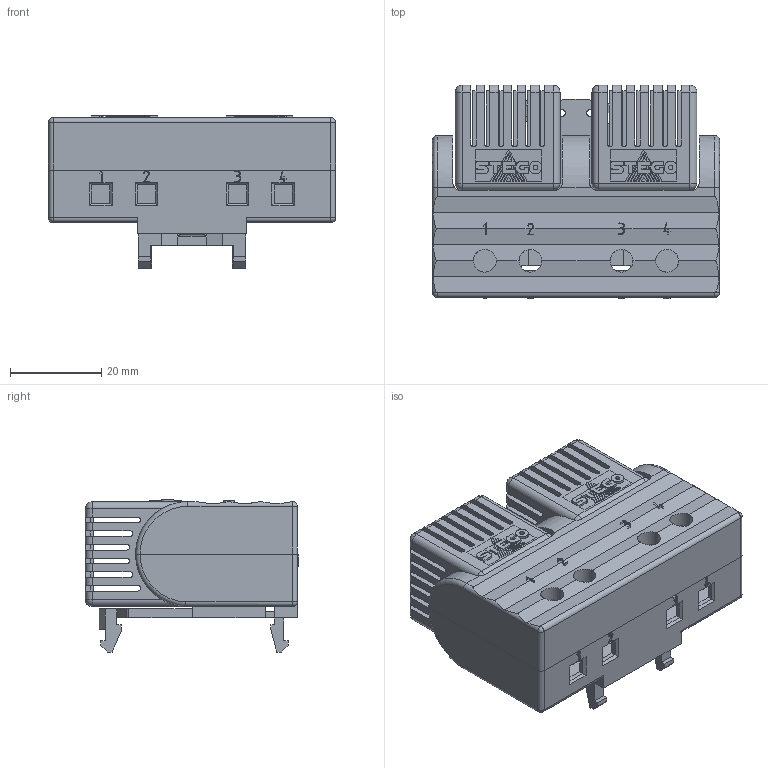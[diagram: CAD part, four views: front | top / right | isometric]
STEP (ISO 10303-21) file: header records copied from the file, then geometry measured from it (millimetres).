
FILE_DESCRIPTION (( 'STEP AP214' ), '1' );
FILE_NAME ('FTD_011_EPLAN_07_2013.STEP', '2013-07-25T14:10:16', ( '' ), ( '' ), 'SwSTEP 2.0', 'SolidWorks 2013', '' );
FILE_SCHEMA (( 'AUTOMOTIVE_DESIGN' ));
Length unit declared in the file: millimetre
Products named in the file (8): STEGO_Logo 15x7; EPLAN651548_Gehaeusekappe~0_651550; EPLAN651549_Gehaeuseboden~0_651551; EPLAN651548_Gehaeusekappe~0; EPLAN651549_Gehaeuseboden~0; EPLAN651557_Klemmengehaeuse_dual_OT~0; EPLAN651556_Klemmengehaeuse_dual_UT~0; FTD_011_EPLAN_07_2013
Assembly tree (8 placements, depth 2):
  FTD_011_EPLAN_07_2013
    EPLAN651556_Klemmengehaeuse_dual_UT~0
    EPLAN651557_Klemmengehaeuse_dual_OT~0
    EPLAN651549_Gehaeuseboden~0
    EPLAN651548_Gehaeusekappe~0
    EPLAN651549_Gehaeuseboden~0_651551
    EPLAN651548_Gehaeusekappe~0_651550
    STEGO_Logo 15x7  x2
Bounding box: 63 x 46.8 x 33.4 mm (x, y, z)
Volume: 18836 mm3; surface area: 32149.1 mm2
Topology: 8 solids, 8 shells, 1296 faces, 3901 edges, 2530 vertices
Faces by surface type: plane 833, cylinder 221, bspline 210, sphere 28, torus 4
Full cylindrical faces by diameter (mm): 5 x4, 7 x4
Entity records: 40582 total; most frequent: CARTESIAN_POINT 10818, ORIENTED_EDGE 6696, DIRECTION 5416, EDGE_CURVE 3348, VECTOR 2452, LINE 2452, VERTEX_POINT 2188, AXIS2_PLACEMENT_3D 1482
